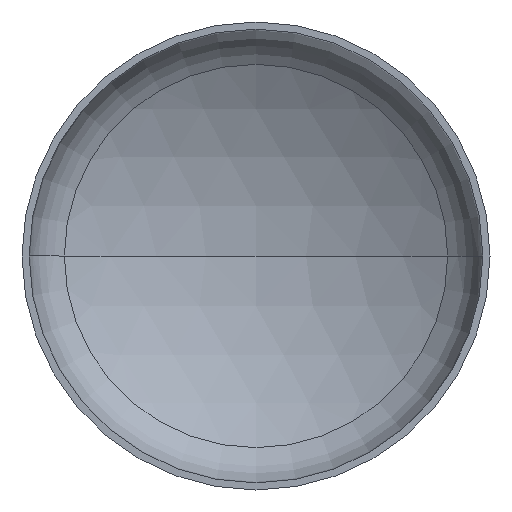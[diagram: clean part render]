
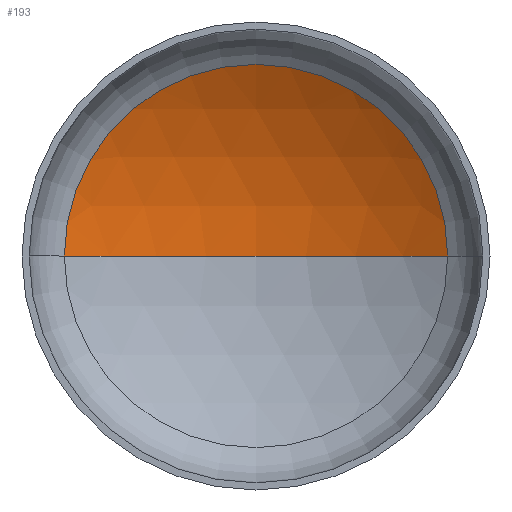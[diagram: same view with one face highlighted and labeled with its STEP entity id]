
A CAD part, front view. The second image highlights one B-rep face of the part: STEP entity #193.
In plain terms, the highlighted spherical face has radius 5200 mm.
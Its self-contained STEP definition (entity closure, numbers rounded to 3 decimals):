
#1 = DIRECTION ( 'NONE',  ( 0., 0., 1. ) ) ;
#7 = CARTESIAN_POINT ( 'NONE',  ( 0., -3507.977, 0. ) ) ;
#49 = AXIS2_PLACEMENT_3D ( 'NONE', #204, #184, #250 ) ;
#54 = VERTEX_POINT ( 'NONE', #247 ) ;
#56 = VERTEX_POINT ( 'NONE', #287 ) ;
#58 = ORIENTED_EDGE ( 'NONE', *, *, #121, .T. ) ;
#61 = AXIS2_PLACEMENT_3D ( 'NONE', #7, #1, #396 ) ;
#62 = AXIS2_PLACEMENT_3D ( 'NONE', #209, #205, #203 ) ;
#64 = VERTEX_POINT ( 'NONE', #281 ) ;
#70 = AXIS2_PLACEMENT_3D ( 'NONE', #293, #292, #214 ) ;
#76 = ORIENTED_EDGE ( 'NONE', *, *, #128, .T. ) ;
#121 = EDGE_CURVE ( 'NONE', #54, #64, #252, .T. ) ;
#128 = EDGE_CURVE ( 'NONE', #56, #54, #182, .T. ) ;
#130 = EDGE_CURVE ( 'NONE', #56, #64, #358, .T. ) ;
#131 = ORIENTED_EDGE ( 'NONE', *, *, #130, .F. ) ;
#132 = EDGE_LOOP ( 'NONE', ( #131, #76, #58 ) ) ;
#182 = CIRCLE ( 'NONE', #62, 5200. ) ;
#184 = DIRECTION ( 'NONE',  ( 0., 0., -1. ) ) ;
#193 = ADVANCED_FACE ( 'NONE', ( #402 ), #290, .F. ) ;
#203 = DIRECTION ( 'NONE',  ( -1., 0., 0. ) ) ;
#204 = CARTESIAN_POINT ( 'NONE',  ( 0., -3507.977, 0. ) ) ;
#205 = DIRECTION ( 'NONE',  ( 0., 0., -1. ) ) ;
#209 = CARTESIAN_POINT ( 'NONE',  ( 0., -3507.977, 0. ) ) ;
#214 = DIRECTION ( 'NONE',  ( 1., 0., 0. ) ) ;
#247 = CARTESIAN_POINT ( 'NONE',  ( 2661.905, 959.042, 0. ) ) ;
#250 = DIRECTION ( 'NONE',  ( -1., 0., 0. ) ) ;
#252 = CIRCLE ( 'NONE', #70, 2661.905 ) ;
#281 = CARTESIAN_POINT ( 'NONE',  ( -2661.905, 959.042, 0. ) ) ;
#287 = CARTESIAN_POINT ( 'NONE',  ( 0., 1692.023, 0. ) ) ;
#290 = SPHERICAL_SURFACE ( 'NONE', #49, 5200. ) ;
#292 = DIRECTION ( 'NONE',  ( 0., -1., 0. ) ) ;
#293 = CARTESIAN_POINT ( 'NONE',  ( 0., 959.042, 0. ) ) ;
#358 = CIRCLE ( 'NONE', #61, 5200. ) ;
#396 = DIRECTION ( 'NONE',  ( 1., 0., 0. ) ) ;
#402 = FACE_OUTER_BOUND ( 'NONE', #132, .T. ) ;
